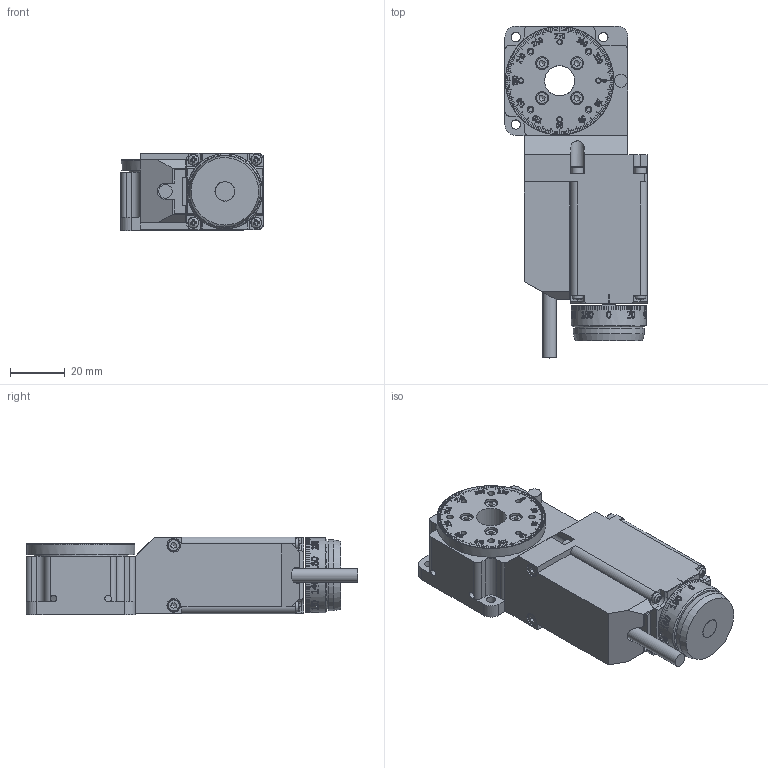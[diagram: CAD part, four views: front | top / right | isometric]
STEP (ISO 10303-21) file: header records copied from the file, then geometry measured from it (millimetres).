
FILE_DESCRIPTION(/* description */ (''),/* implementation_level */ '2;1');
FILE_NAME(/* name */ 'C:\Users\dsgn39\Desktop\Internetui\8MR174E-11-28\8MR174-11-28.stp',/* time_stamp */ '2017-03-17T09:33:21+02:00',/* author */ ('dsgn39'),/* organization */ (''),/* preprocessor_version */ 'ST-DEVELOPER v15.2',/* originating_system */ 'Autodesk Inventor 2014',/* authorisation */ '');
FILE_SCHEMA (('AUTOMOTIVE_DESIGN { 1 0 10303 214 3 1 1 }'));
Products named in the file (2): Part19; Assembly9
Bounding box: 52 x 121.35 x 28.5 mm (x, y, z)
Volume: 113693.9 mm3; surface area: 25734.2 mm2
Topology: 1 solids, 15 shells, 2668 faces, 7432 edges, 4924 vertices
Faces by surface type: plane 1605, bspline 657, cylinder 278, cone 84, torus 32, sphere 12
Full cylindrical faces by diameter (mm): 1.6 x8, 1.8 x4, 2 x4, 2.013 x4, 2.256 x3, 2.459 x6, 2.5 x9, 2.621 x2, 2.8 x4, 3 x9, 3.4 x3, 4.5 x9, 4.8 x5, 4.9 x3, 5 x4, 7 x2, 7.2 x1, 11 x1, 12 x1, 25 x1, 26 x1, 27.5 x1, 34.5 x1, 39.6 x1
Entity records: 150278 total; most frequent: CARTESIAN_POINT 87453, ORIENTED_EDGE 14430, DIRECTION 10500, EDGE_CURVE 7215, VERTEX_POINT 4863, LINE 4164, VECTOR 4164, AXIS2_PLACEMENT_3D 3168
